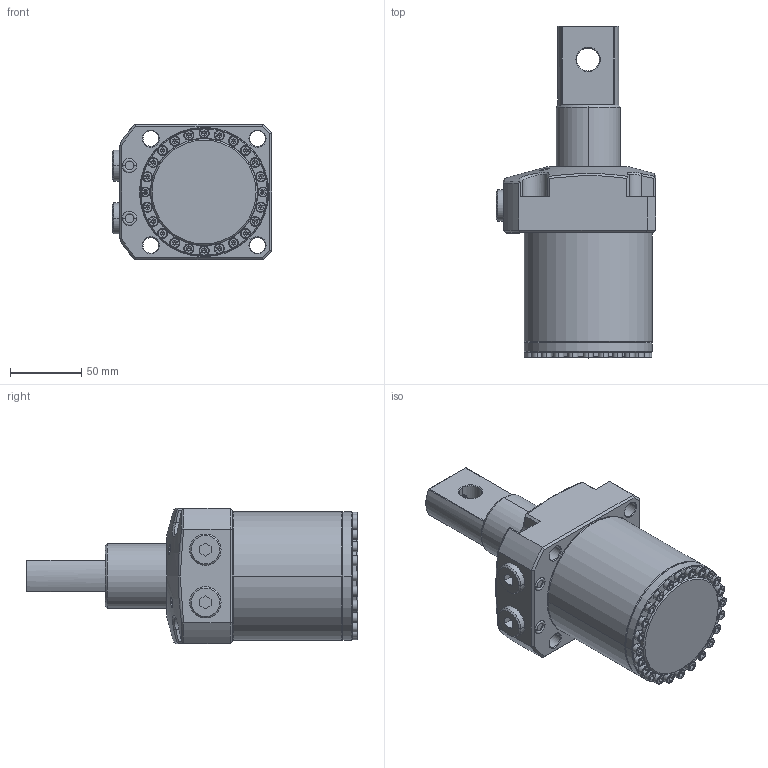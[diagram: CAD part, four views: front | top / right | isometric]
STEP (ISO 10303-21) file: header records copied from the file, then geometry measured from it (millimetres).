
FILE_DESCRIPTION((''),'2;1');
FILE_NAME('SIMP_GENERIC_SWING_CYD_90_PIN_ASM','2023-04-16T14:51:05',('Design 2'),(''),'CREO PARAMETRIC BY PTC INC, 2020053','CREO PARAMETRIC BY PTC INC, 2020053','');
FILE_SCHEMA(('CONFIG_CONTROL_DESIGN'));
Length unit declared in the file: millimetre
Products named in the file (13): BODY___; BODY_TOP_FLG____ASM; PIN_PISTON_; PISTON_ASM____ASM; SWINGER_ARM___; SWINGER_ARM_ASM____ASM; 1______; 2______; HALDER_SEALING-PLUG-228800_SS___ASM; ISHCS04X10_; STATIC-O-RING-10X2SS___; G-3-8_CLOSE_PLUG_; SIMP_GENERIC_SWING_CYD_90_PIN_ASM
Assembly tree (38 placements, depth 3):
  SIMP_GENERIC_SWING_CYD_90_PIN_ASM
    BODY_TOP_FLG____ASM
      BODY___
    PISTON_ASM____ASM
      PIN_PISTON_
    SWINGER_ARM_ASM____ASM
      SWINGER_ARM___
    HALDER_SEALING-PLUG-228800_SS___ASM  x2
      1______
      2______
    ISHCS04X10_  x24
    STATIC-O-RING-10X2SS___  x2
    G-3-8_CLOSE_PLUG_  x2
Bounding box: 112 x 233.15 x 95 mm (x, y, z)
Volume: 1005014.3 mm3; surface area: 137145.4 mm2
Topology: 35 solids, 35 shells, 1409 faces, 3078 edges, 1763 vertices
Faces by surface type: plane 468, cylinder 434, cone 402, torus 60, bspline 39, sphere 6
Entity records: 21253 total; most frequent: CARTESIAN_POINT 7225, DIRECTION 2987, ORIENTED_EDGE 2730, EDGE_CURVE 1365, AXIS2_PLACEMENT_3D 1187, VERTEX_POINT 812, EDGE_LOOP 707, VECTOR 613
